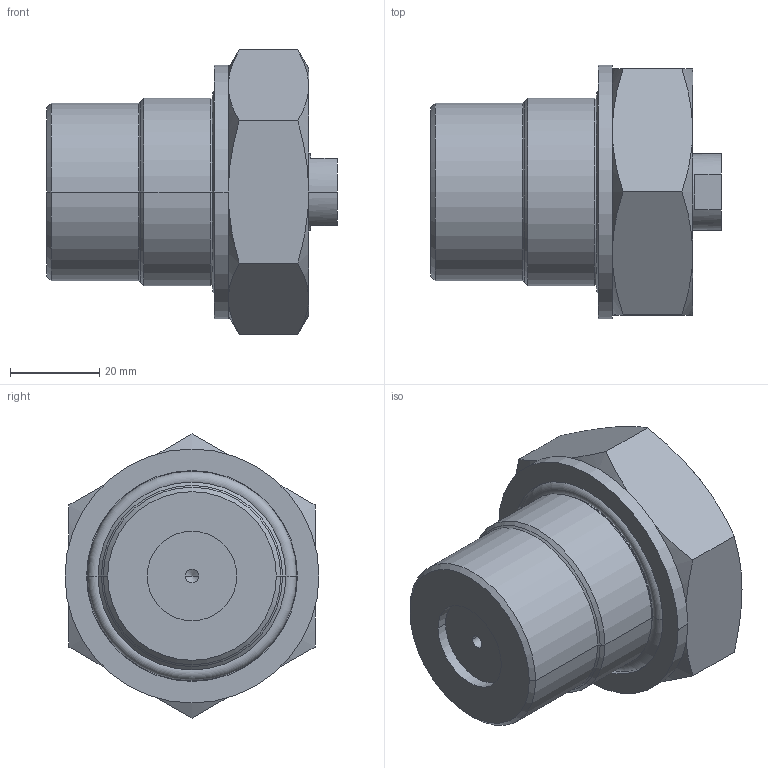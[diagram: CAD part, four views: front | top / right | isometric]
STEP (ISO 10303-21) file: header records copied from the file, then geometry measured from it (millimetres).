
FILE_DESCRIPTION((''),'2;1');
FILE_NAME('CSM-27152_ASM','2011-06-24T',('chad.steele'),(''),'PRO/ENGINEER BY PARAMETRIC TECHNOLOGY CORPORATION, 2010040','PRO/ENGINEER BY PARAMETRIC TECHNOLOGY CORPORATION, 2010040','');
FILE_SCHEMA(('CONFIG_CONTROL_DESIGN'));
Length unit declared in the file: millimetre
Products named in the file (6): DC6083030; PA1823108; DC6039044; DC4851040; PA1833503; CSM-27152_ASM
Assembly tree (5 placements, depth 2):
  CSM-27152_ASM
    DC6083030
    PA1823108
    DC6039044
    DC4851040
    PA1833503
Bounding box: 65 x 56.77 x 63.51 mm (x, y, z)
Volume: 87219.1 mm3; surface area: 37788.6 mm2
Topology: 5 solids, 9 shells, 142 faces, 316 edges, 188 vertices
Faces by surface type: cylinder 48, cone 36, plane 34, torus 24
Entity records: 4256 total; most frequent: CARTESIAN_POINT 871, DIRECTION 778, ORIENTED_EDGE 608, AXIS2_PLACEMENT_3D 339, EDGE_CURVE 312, VERTEX_POINT 188, CIRCLE 180, EDGE_LOOP 158
